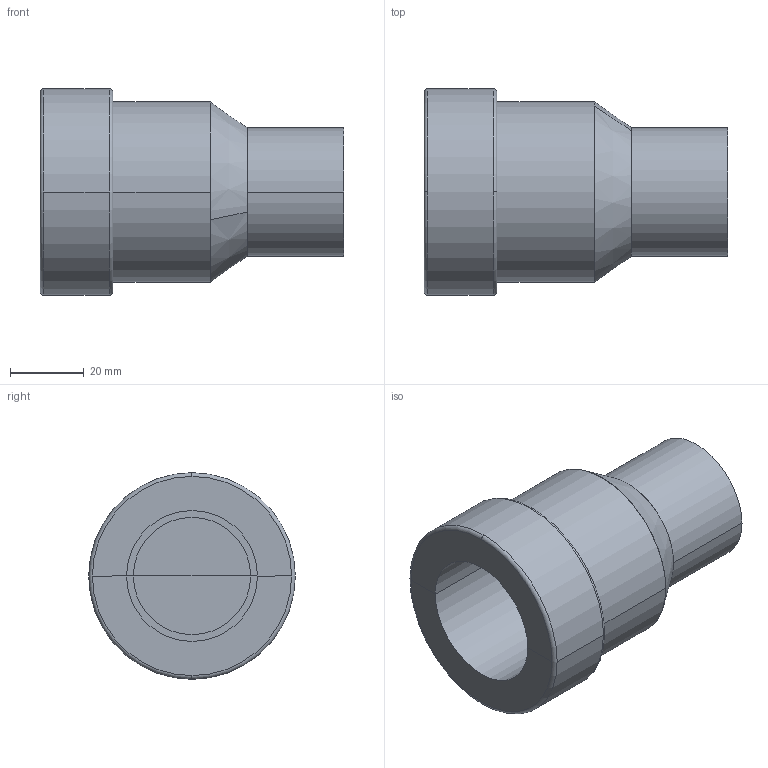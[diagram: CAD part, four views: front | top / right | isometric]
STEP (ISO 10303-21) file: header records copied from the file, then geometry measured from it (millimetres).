
FILE_DESCRIPTION (( 'STEP AP203' ), '1' );
FILE_NAME ('Viega_MegaPress_Coupling,Transition4813-4ZL - 1-1_4in.STEP', '2025-02-21T14:51:36', ( '' ), ( '' ), 'SwSTEP 2.0', 'SolidWorks 2020', '' );
FILE_SCHEMA (( 'CONFIG_CONTROL_DESIGN' ));
Length unit declared in the file: millimetre
Products named in the file (1): Viega_MegaPress_Coupling,Transition4813-4ZL - 1-1_4in
Bounding box: 82.4 x 56 x 56 mm (x, y, z)
Volume: 128184.7 mm3; surface area: 36139.8 mm2
Topology: 5 solids, 5 shells, 36 faces, 76 edges, 48 vertices
Faces by surface type: plane 16, cylinder 14, torus 4, cone 2
Entity records: 1065 total; most frequent: DIRECTION 202, CARTESIAN_POINT 161, ORIENTED_EDGE 152, AXIS2_PLACEMENT_3D 89, EDGE_CURVE 76, CIRCLE 52, VERTEX_POINT 48, EDGE_LOOP 38
